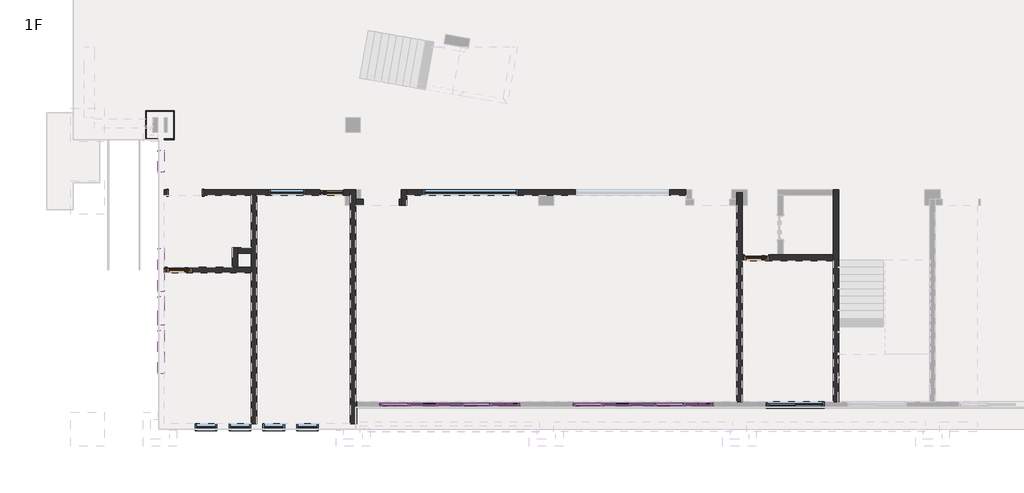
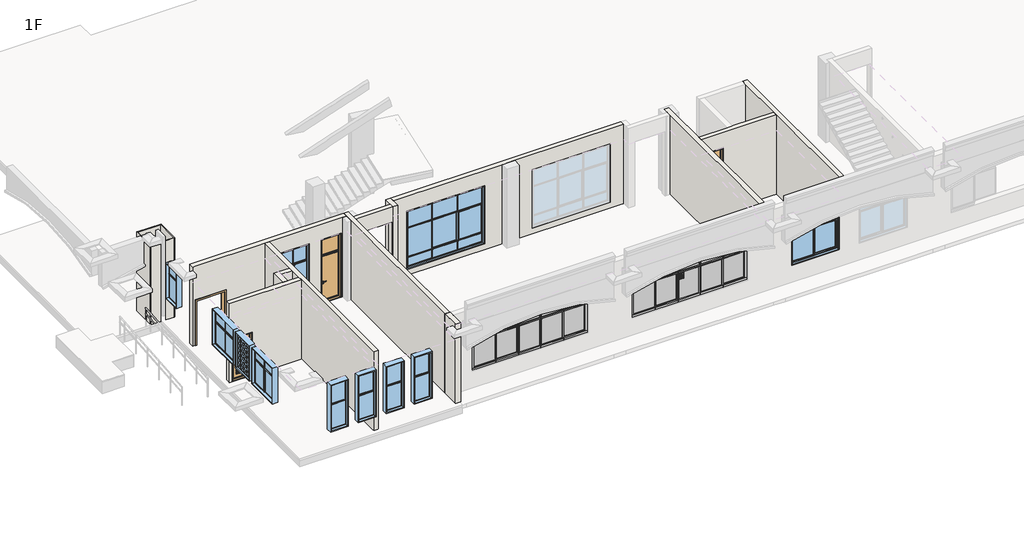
# One storey, part 1 of 16: 50 members, 18 walls, 16 plates, 11 windows, 4 doors.
"""IFC4 building model written with IfcOpenShell, lengths in millimetres."""

from ifc_helpers import new_model, si_unit, origin, origin_with_axes, place, context, project, spatial, polyline, outline, extrude, faceted_brep, transform, mapped, element, save
from components import dk1_dk1_83e99b34, m2_m2_dfb05117, m2_m2_a1934b10, m3_m3_68d9ec90, member_7564be38, member_1f4d75dd, member_0b7842ad, member_163d5e45, member_ffafc35e, member_2b011958, member_9c26cac3, member_6c42befd, member_a374fdad, plate_f4dba16c, plate_1cc4df2b, plate_4fa5932a, plate_00f9c624, plate_18a10205, plate_942ffe46, window_f154a97f, lc1_lc1_e150ab57, lc2_lc2_a0e1ef0e, lc4_lc4_fe35c1f3, lc5_lc5_223d64ff, lc6_lc6_03a52bd1, lc7_lc7_d4e3c0d7, lc7a_lc7a_17cb4d8c

model = new_model("IFC4")

# Units and contexts
model_context = context("Model", 3, world=origin())
ifc_project = project(units=[si_unit("LENGTHUNIT", "METRE", prefix="MILLI")], contexts=[model_context])

# Site, building, storey
site = spatial("IfcSite", under=ifc_project)
building = spatial("IfcBuilding", under=site)
storey = spatial("IfcBuildingStorey", under=building, Name="1F", Elevation=0.0)

# Doors
placement = place(None, origin())
dk1_dk1_shape = dk1_dk1_83e99b34(model_context)
element("IfcDoor", 1, ObjectType="DK1 : DK1", at=placement, inside=storey, context=model_context, shape_type="MappedRepresentation", body=[
    mapped(dk1_dk1_shape, transform((4050.0, 9800.276907, 0.0), x_axis=(-1.0, 0.0, 0.0), y_axis=(0.0, -1.0, 0.0), z_axis=(0.0, 0.0, 1.0))),
])
m2_m2_shape = m2_m2_dfb05117(model_context)
element("IfcDoor", 2, ObjectType="M2 : M2", at=placement, inside=storey, context=model_context, shape_type="MappedRepresentation", body=[
    mapped(m2_m2_shape, transform((10109.9999985, 9800.276907, 0.0), x_axis=(-1.0, 0.0, 0.0), y_axis=(0.0, -1.0, 0.0), z_axis=(0.0, 0.0, 1.0))),
])
m2_m2_2_shape = m2_m2_a1934b10(model_context)
element("IfcDoor", 3, ObjectType="M2 : M2", at=placement, inside=storey, context=model_context, shape_type="MappedRepresentation", body=[
    mapped(m2_m2_2_shape, transform((27709.9999991, 7100.3045362, 0.0), x_axis=(1.0, 0.0, 0.0), y_axis=(0.0, 1.0, 0.0), z_axis=(0.0, 0.0, 1.0))),
])
m3_m3_shape = m3_m3_68d9ec90(model_context)
element("IfcDoor", 4, ObjectType="M3 : M3", at=placement, inside=storey, context=model_context, shape_type="MappedRepresentation", body=[
    mapped(m3_m3_shape, transform((3809.9999988, 6600.7769017, 0.0), x_axis=(1.0, 0.0, 0.0), y_axis=(0.0, 1.0, 0.0), z_axis=(0.0, 0.0, 1.0))),
])

# Members
member_shape = member_7564be38(model_context)
element("IfcMember", 5, ObjectType="矩形竖梃 : 教学楼 – 矩形竖梃 – 100x150mm", at=placement, inside=storey, context=model_context, shape_type="MappedRepresentation", body=[
    mapped(member_shape, transform((17909.9999985, 1000.0, 3400.0), x_axis=(0.0, 0.0, 1.0), y_axis=(0.0, -1.0, 0.0), z_axis=(1.0, 0.0, 0.0))),
])
element("IfcMember", 6, ObjectType="矩形竖梃 : 教学楼 – 矩形竖梃 – 100x150mm", at=placement, inside=storey, context=model_context, shape_type="MappedRepresentation", body=[
    mapped(member_shape, transform((25909.9999985, 1000.0, 3400.0), x_axis=(0.0, 0.0, 1.0), y_axis=(0.0, -1.0, 0.0), z_axis=(1.0, 0.0, 0.0))),
])
element("IfcMember", 7, ObjectType="矩形竖梃 : 教学楼 – 矩形竖梃 – 100x150mm", at=placement, inside=storey, context=model_context, shape_type="MappedRepresentation", body=[
    mapped(member_shape, transform((12109.9999985, 1000.0, 900.0), x_axis=(0.0, 0.0, -1.0), y_axis=(0.0, -1.0, 0.0), z_axis=(-1.0, 0.0, 0.0))),
])
element("IfcMember", 8, ObjectType="矩形竖梃 : 教学楼 – 矩形竖梃 – 100x150mm", at=placement, inside=storey, context=model_context, shape_type="MappedRepresentation", body=[
    mapped(member_shape, transform((20109.9999985, 1000.0, 900.0), x_axis=(0.0, 0.0, -1.0), y_axis=(0.0, -1.0, 0.0), z_axis=(-1.0, 0.0, 0.0))),
])
member_2_shape = member_1f4d75dd(model_context)
element("IfcMember", 9, ObjectType="矩形竖梃 : 教学楼 – 矩形竖梃 – 50x150mm", at=placement, inside=storey, context=model_context, shape_type="MappedRepresentation", body=[
    mapped(member_2_shape, transform((14459.9999985, 1000.0, 1000.0), x_axis=(1.0, 0.0, 0.0), y_axis=(0.0, -1.0, 0.0), z_axis=(0.0, 0.0, -1.0))),
])
element("IfcMember", 10, ObjectType="矩形竖梃 : 教学楼 – 矩形竖梃 – 50x150mm", at=placement, inside=storey, context=model_context, shape_type="MappedRepresentation", body=[
    mapped(member_2_shape, transform((15559.9999985, 1000.0, 1000.0), x_axis=(1.0, 0.0, 0.0), y_axis=(0.0, -1.0, 0.0), z_axis=(0.0, 0.0, -1.0))),
])
element("IfcMember", 11, ObjectType="矩形竖梃 : 教学楼 – 矩形竖梃 – 50x150mm", at=placement, inside=storey, context=model_context, shape_type="MappedRepresentation", body=[
    mapped(member_2_shape, transform((22459.9999985, 1000.0, 1000.0), x_axis=(1.0, 0.0, 0.0), y_axis=(0.0, -1.0, 0.0), z_axis=(0.0, 0.0, -1.0))),
])
element("IfcMember", 12, ObjectType="矩形竖梃 : 教学楼 – 矩形竖梃 – 50x150mm", at=placement, inside=storey, context=model_context, shape_type="MappedRepresentation", body=[
    mapped(member_2_shape, transform((23559.9999985, 1000.0, 1000.0), x_axis=(1.0, 0.0, 0.0), y_axis=(0.0, -1.0, 0.0), z_axis=(0.0, 0.0, -1.0))),
])
member_3_shape = member_0b7842ad(model_context)
element("IfcMember", 13, ObjectType="矩形竖梃 : 教学楼 – 矩形竖梃 – 50x150mm", at=placement, inside=storey, context=model_context, shape_type="MappedRepresentation", body=[
    mapped(member_3_shape, transform((13309.9999985, 1000.0, 2450.0), x_axis=(0.0, 0.0, 1.0), y_axis=(0.0, -1.0, 0.0), z_axis=(1.0, 0.0, 0.0))),
])
element("IfcMember", 14, ObjectType="矩形竖梃 : 教学楼 – 矩形竖梃 – 50x150mm", at=placement, inside=storey, context=model_context, shape_type="MappedRepresentation", body=[
    mapped(member_3_shape, transform((21309.9999985, 1000.0, 2450.0), x_axis=(0.0, 0.0, 1.0), y_axis=(0.0, -1.0, 0.0), z_axis=(1.0, 0.0, 0.0))),
])
member_4_shape = member_163d5e45(model_context)
element("IfcMember", 15, ObjectType="矩形竖梃 : 教学楼 – 矩形竖梃 – 50x150mm", at=placement, inside=storey, context=model_context, shape_type="MappedRepresentation", body=[
    mapped(member_4_shape, transform((14459.9999985, 1000.0, 2450.0), x_axis=(0.0, 0.0, 1.0), y_axis=(0.0, -1.0, 0.0), z_axis=(1.0, 0.0, 0.0))),
])
element("IfcMember", 16, ObjectType="矩形竖梃 : 教学楼 – 矩形竖梃 – 50x150mm", at=placement, inside=storey, context=model_context, shape_type="MappedRepresentation", body=[
    mapped(member_4_shape, transform((16709.9999985, 1000.0, 2450.0), x_axis=(0.0, 0.0, 1.0), y_axis=(0.0, -1.0, 0.0), z_axis=(1.0, 0.0, 0.0))),
])
element("IfcMember", 17, ObjectType="矩形竖梃 : 教学楼 – 矩形竖梃 – 50x150mm", at=placement, inside=storey, context=model_context, shape_type="MappedRepresentation", body=[
    mapped(member_4_shape, transform((22459.9999985, 1000.0, 2450.0), x_axis=(0.0, 0.0, 1.0), y_axis=(0.0, -1.0, 0.0), z_axis=(1.0, 0.0, 0.0))),
])
element("IfcMember", 18, ObjectType="矩形竖梃 : 教学楼 – 矩形竖梃 – 50x150mm", at=placement, inside=storey, context=model_context, shape_type="MappedRepresentation", body=[
    mapped(member_4_shape, transform((24709.9999985, 1000.0, 2450.0), x_axis=(0.0, 0.0, 1.0), y_axis=(0.0, -1.0, 0.0), z_axis=(1.0, 0.0, 0.0))),
])
element("IfcMember", 19, ObjectType="矩形竖梃 : 教学楼 – 矩形竖梃 – 50x150mm", at=placement, inside=storey, context=model_context, shape_type="MappedRepresentation", body=[
    mapped(member_3_shape, transform((15559.9999985, 1000.0, 2450.0), x_axis=(0.0, 0.0, 1.0), y_axis=(0.0, -1.0, 0.0), z_axis=(1.0, 0.0, 0.0))),
])
element("IfcMember", 20, ObjectType="矩形竖梃 : 教学楼 – 矩形竖梃 – 50x150mm", at=placement, inside=storey, context=model_context, shape_type="MappedRepresentation", body=[
    mapped(member_3_shape, transform((23559.9999985, 1000.0, 2450.0), x_axis=(0.0, 0.0, 1.0), y_axis=(0.0, -1.0, 0.0), z_axis=(1.0, 0.0, 0.0))),
])
element("IfcMember", 21, ObjectType="矩形竖梃 : 教学楼 – 矩形竖梃 – 50x150mm", at=placement, inside=storey, context=model_context, shape_type="MappedRepresentation", body=[
    mapped(member_3_shape, transform((17809.9999985, 1000.0, 2450.0), x_axis=(0.0, 0.0, 1.0), y_axis=(0.0, -1.0, 0.0), z_axis=(1.0, 0.0, 0.0))),
])
element("IfcMember", 22, ObjectType="矩形竖梃 : 教学楼 – 矩形竖梃 – 50x150mm", at=placement, inside=storey, context=model_context, shape_type="MappedRepresentation", body=[
    mapped(member_3_shape, transform((25809.9999985, 1000.0, 2450.0), x_axis=(0.0, 0.0, 1.0), y_axis=(0.0, -1.0, 0.0), z_axis=(1.0, 0.0, 0.0))),
])
member_5_shape = member_ffafc35e(model_context)
element("IfcMember", 23, ObjectType="矩形竖梃 : 教学楼 – 矩形竖梃 – 100x150mm", at=placement, inside=storey, context=model_context, shape_type="MappedRepresentation", body=[
    mapped(member_5_shape, transform((13309.9999985, 1000.0, 900.0), x_axis=(0.0, 0.0, -1.0), y_axis=(0.0, -1.0, 0.0), z_axis=(-1.0, 0.0, 0.0))),
])
element("IfcMember", 24, ObjectType="矩形竖梃 : 教学楼 – 矩形竖梃 – 100x150mm", at=placement, inside=storey, context=model_context, shape_type="MappedRepresentation", body=[
    mapped(member_5_shape, transform((21309.9999985, 1000.0, 900.0), x_axis=(0.0, 0.0, -1.0), y_axis=(0.0, -1.0, 0.0), z_axis=(-1.0, 0.0, 0.0))),
])
member_6_shape = member_2b011958(model_context)
element("IfcMember", 25, ObjectType="矩形竖梃 : 教学楼 – 矩形竖梃 – 100x150mm", at=placement, inside=storey, context=model_context, shape_type="MappedRepresentation", body=[
    mapped(member_6_shape, transform((14459.9999985, 1000.0, 900.0), x_axis=(0.0, 0.0, -1.0), y_axis=(0.0, -1.0, 0.0), z_axis=(-1.0, 0.0, 0.0))),
])
element("IfcMember", 26, ObjectType="矩形竖梃 : 教学楼 – 矩形竖梃 – 100x150mm", at=placement, inside=storey, context=model_context, shape_type="MappedRepresentation", body=[
    mapped(member_6_shape, transform((22459.9999985, 1000.0, 900.0), x_axis=(0.0, 0.0, -1.0), y_axis=(0.0, -1.0, 0.0), z_axis=(-1.0, 0.0, 0.0))),
])
element("IfcMember", 27, ObjectType="矩形竖梃 : 教学楼 – 矩形竖梃 – 100x150mm", at=placement, inside=storey, context=model_context, shape_type="MappedRepresentation", body=[
    mapped(member_5_shape, transform((15559.9999985, 1000.0, 900.0), x_axis=(0.0, 0.0, -1.0), y_axis=(0.0, -1.0, 0.0), z_axis=(-1.0, 0.0, 0.0))),
])
element("IfcMember", 28, ObjectType="矩形竖梃 : 教学楼 – 矩形竖梃 – 100x150mm", at=placement, inside=storey, context=model_context, shape_type="MappedRepresentation", body=[
    mapped(member_5_shape, transform((23559.9999985, 1000.0, 900.0), x_axis=(0.0, 0.0, -1.0), y_axis=(0.0, -1.0, 0.0), z_axis=(-1.0, 0.0, 0.0))),
])
element("IfcMember", 29, ObjectType="矩形竖梃 : 教学楼 – 矩形竖梃 – 100x150mm", at=placement, inside=storey, context=model_context, shape_type="MappedRepresentation", body=[
    mapped(member_shape, transform((16709.9999985, 1000.0, 900.0), x_axis=(0.0, 0.0, -1.0), y_axis=(0.0, -1.0, 0.0), z_axis=(-1.0, 0.0, 0.0))),
])
element("IfcMember", 30, ObjectType="矩形竖梃 : 教学楼 – 矩形竖梃 – 100x150mm", at=placement, inside=storey, context=model_context, shape_type="MappedRepresentation", body=[
    mapped(member_shape, transform((24709.9999985, 1000.0, 900.0), x_axis=(0.0, 0.0, -1.0), y_axis=(0.0, -1.0, 0.0), z_axis=(-1.0, 0.0, 0.0))),
])
element("IfcMember", 31, ObjectType="矩形竖梃 : 教学楼 – 矩形竖梃 – 100x150mm", at=placement, inside=storey, context=model_context, shape_type="MappedRepresentation", body=[
    mapped(member_shape, transform((13309.9999985, 1000.0, 3400.0), x_axis=(0.0, 0.0, 1.0), y_axis=(0.0, -1.0, 0.0), z_axis=(1.0, 0.0, 0.0))),
])
element("IfcMember", 32, ObjectType="矩形竖梃 : 教学楼 – 矩形竖梃 – 100x150mm", at=placement, inside=storey, context=model_context, shape_type="MappedRepresentation", body=[
    mapped(member_shape, transform((21309.9999985, 1000.0, 3400.0), x_axis=(0.0, 0.0, 1.0), y_axis=(0.0, -1.0, 0.0), z_axis=(1.0, 0.0, 0.0))),
])
element("IfcMember", 33, ObjectType="矩形竖梃 : 教学楼 – 矩形竖梃 – 100x150mm", at=placement, inside=storey, context=model_context, shape_type="MappedRepresentation", body=[
    mapped(member_5_shape, transform((14459.9999985, 1000.0, 3400.0), x_axis=(0.0, 0.0, 1.0), y_axis=(0.0, -1.0, 0.0), z_axis=(1.0, 0.0, 0.0))),
])
element("IfcMember", 34, ObjectType="矩形竖梃 : 教学楼 – 矩形竖梃 – 100x150mm", at=placement, inside=storey, context=model_context, shape_type="MappedRepresentation", body=[
    mapped(member_5_shape, transform((16709.9999985, 1000.0, 3400.0), x_axis=(0.0, 0.0, 1.0), y_axis=(0.0, -1.0, 0.0), z_axis=(1.0, 0.0, 0.0))),
])
element("IfcMember", 35, ObjectType="矩形竖梃 : 教学楼 – 矩形竖梃 – 100x150mm", at=placement, inside=storey, context=model_context, shape_type="MappedRepresentation", body=[
    mapped(member_5_shape, transform((22459.9999985, 1000.0, 3400.0), x_axis=(0.0, 0.0, 1.0), y_axis=(0.0, -1.0, 0.0), z_axis=(1.0, 0.0, 0.0))),
])
element("IfcMember", 36, ObjectType="矩形竖梃 : 教学楼 – 矩形竖梃 – 100x150mm", at=placement, inside=storey, context=model_context, shape_type="MappedRepresentation", body=[
    mapped(member_5_shape, transform((24709.9999985, 1000.0, 3400.0), x_axis=(0.0, 0.0, 1.0), y_axis=(0.0, -1.0, 0.0), z_axis=(1.0, 0.0, 0.0))),
])
element("IfcMember", 37, ObjectType="矩形竖梃 : 教学楼 – 矩形竖梃 – 100x150mm", at=placement, inside=storey, context=model_context, shape_type="MappedRepresentation", body=[
    mapped(member_6_shape, transform((15559.9999985, 1000.0, 3400.0), x_axis=(0.0, 0.0, 1.0), y_axis=(0.0, -1.0, 0.0), z_axis=(1.0, 0.0, 0.0))),
])
element("IfcMember", 38, ObjectType="矩形竖梃 : 教学楼 – 矩形竖梃 – 100x150mm", at=placement, inside=storey, context=model_context, shape_type="MappedRepresentation", body=[
    mapped(member_6_shape, transform((23559.9999985, 1000.0, 3400.0), x_axis=(0.0, 0.0, 1.0), y_axis=(0.0, -1.0, 0.0), z_axis=(1.0, 0.0, 0.0))),
])
member_7_shape = member_9c26cac3(model_context)
element("IfcMember", 39, ObjectType="矩形竖梃 : 教学楼 – 矩形竖梃 – 50x150mm", at=placement, inside=storey, context=model_context, shape_type="MappedRepresentation", body=[
    mapped(member_7_shape, transform((13309.9999985, 1000.0, 2475.0), x_axis=(1.0, 0.0, 0.0), y_axis=(0.0, -1.0, 0.0), z_axis=(0.0, 0.0, -1.0))),
])
element("IfcMember", 40, ObjectType="矩形竖梃 : 教学楼 – 矩形竖梃 – 50x150mm", at=placement, inside=storey, context=model_context, shape_type="MappedRepresentation", body=[
    mapped(member_7_shape, transform((14459.9999985, 1000.0, 2475.0), x_axis=(1.0, 0.0, 0.0), y_axis=(0.0, -1.0, 0.0), z_axis=(0.0, 0.0, -1.0))),
])
element("IfcMember", 41, ObjectType="矩形竖梃 : 教学楼 – 矩形竖梃 – 50x150mm", at=placement, inside=storey, context=model_context, shape_type="MappedRepresentation", body=[
    mapped(member_7_shape, transform((15559.9999985, 1000.0, 2475.0), x_axis=(1.0, 0.0, 0.0), y_axis=(0.0, -1.0, 0.0), z_axis=(0.0, 0.0, -1.0))),
])
element("IfcMember", 42, ObjectType="矩形竖梃 : 教学楼 – 矩形竖梃 – 50x150mm", at=placement, inside=storey, context=model_context, shape_type="MappedRepresentation", body=[
    mapped(member_7_shape, transform((16709.9999985, 1000.0, 2475.0), x_axis=(1.0, 0.0, 0.0), y_axis=(0.0, -1.0, 0.0), z_axis=(0.0, 0.0, -1.0))),
])
element("IfcMember", 43, ObjectType="矩形竖梃 : 教学楼 – 矩形竖梃 – 50x150mm", at=placement, inside=storey, context=model_context, shape_type="MappedRepresentation", body=[
    mapped(member_7_shape, transform((21309.9999985, 1000.0, 2475.0), x_axis=(1.0, 0.0, 0.0), y_axis=(0.0, -1.0, 0.0), z_axis=(0.0, 0.0, -1.0))),
])
element("IfcMember", 44, ObjectType="矩形竖梃 : 教学楼 – 矩形竖梃 – 50x150mm", at=placement, inside=storey, context=model_context, shape_type="MappedRepresentation", body=[
    mapped(member_7_shape, transform((22459.9999985, 1000.0, 2475.0), x_axis=(1.0, 0.0, 0.0), y_axis=(0.0, -1.0, 0.0), z_axis=(0.0, 0.0, -1.0))),
])
element("IfcMember", 45, ObjectType="矩形竖梃 : 教学楼 – 矩形竖梃 – 50x150mm", at=placement, inside=storey, context=model_context, shape_type="MappedRepresentation", body=[
    mapped(member_7_shape, transform((23559.9999985, 1000.0, 2475.0), x_axis=(1.0, 0.0, 0.0), y_axis=(0.0, -1.0, 0.0), z_axis=(0.0, 0.0, -1.0))),
])
element("IfcMember", 46, ObjectType="矩形竖梃 : 教学楼 – 矩形竖梃 – 50x150mm", at=placement, inside=storey, context=model_context, shape_type="MappedRepresentation", body=[
    mapped(member_7_shape, transform((24709.9999985, 1000.0, 2475.0), x_axis=(1.0, 0.0, 0.0), y_axis=(0.0, -1.0, 0.0), z_axis=(0.0, 0.0, -1.0))),
])
member_8_shape = member_6c42befd(model_context)
element("IfcMember", 47, ObjectType="矩形竖梃 : 教学楼 – 矩形竖梃 – 100x150mm", at=placement, inside=storey, context=model_context, shape_type="MappedRepresentation", body=[
    mapped(member_8_shape, transform((12109.9999985, 1000.0, 3300.0), x_axis=(-1.0, 0.0, 0.0), y_axis=(0.0, -1.0, 0.0), z_axis=(0.0, 0.0, 1.0))),
])
element("IfcMember", 48, ObjectType="矩形竖梃 : 教学楼 – 矩形竖梃 – 100x150mm", at=placement, inside=storey, context=model_context, shape_type="MappedRepresentation", body=[
    mapped(member_8_shape, transform((20109.9999985, 1000.0, 3300.0), x_axis=(-1.0, 0.0, 0.0), y_axis=(0.0, -1.0, 0.0), z_axis=(0.0, 0.0, 1.0))),
])
member_9_shape = member_a374fdad(model_context)
element("IfcMember", 49, ObjectType="矩形竖梃 : 教学楼 – 矩形竖梃 – 100x150mm", at=placement, inside=storey, context=model_context, shape_type="MappedRepresentation", body=[
    mapped(member_9_shape, transform((17909.9999985, 1000.0, 1000.0), x_axis=(1.0, 0.0, 0.0), y_axis=(0.0, -1.0, 0.0), z_axis=(0.0, 0.0, -1.0))),
])
element("IfcMember", 50, ObjectType="矩形竖梃 : 教学楼 – 矩形竖梃 – 100x150mm", at=placement, inside=storey, context=model_context, shape_type="MappedRepresentation", body=[
    mapped(member_9_shape, transform((25909.9999985, 1000.0, 1000.0), x_axis=(1.0, 0.0, 0.0), y_axis=(0.0, -1.0, 0.0), z_axis=(0.0, 0.0, -1.0))),
])
element("IfcMember", 51, ObjectType="矩形竖梃 : 教学楼 – 矩形竖梃 – 100x150mm", at=placement, inside=storey, context=model_context, shape_type="MappedRepresentation", body=[
    mapped(member_8_shape, transform((17909.9999985, 1000.0, 2450.0), x_axis=(1.0, 0.0, 0.0), y_axis=(0.0, -1.0, 0.0), z_axis=(0.0, 0.0, -1.0))),
])
element("IfcMember", 52, ObjectType="矩形竖梃 : 教学楼 – 矩形竖梃 – 100x150mm", at=placement, inside=storey, context=model_context, shape_type="MappedRepresentation", body=[
    mapped(member_8_shape, transform((25909.9999985, 1000.0, 2450.0), x_axis=(1.0, 0.0, 0.0), y_axis=(0.0, -1.0, 0.0), z_axis=(0.0, 0.0, -1.0))),
])
element("IfcMember", 53, ObjectType="矩形竖梃 : 教学楼 – 矩形竖梃 – 100x150mm", at=placement, inside=storey, context=model_context, shape_type="MappedRepresentation", body=[
    mapped(member_9_shape, transform((12109.9999985, 1000.0, 2450.0), x_axis=(-1.0, 0.0, 0.0), y_axis=(0.0, -1.0, 0.0), z_axis=(0.0, 0.0, 1.0))),
])
element("IfcMember", 54, ObjectType="矩形竖梃 : 教学楼 – 矩形竖梃 – 100x150mm", at=placement, inside=storey, context=model_context, shape_type="MappedRepresentation", body=[
    mapped(member_9_shape, transform((20109.9999985, 1000.0, 2450.0), x_axis=(-1.0, 0.0, 0.0), y_axis=(0.0, -1.0, 0.0), z_axis=(0.0, 0.0, 1.0))),
])

# Plates
plate_shape = plate_f4dba16c(model_context)
element("IfcPlate", 55, ObjectType="系统嵌板 : 玻璃", at=placement, inside=storey, context=model_context, shape_type="MappedRepresentation", body=[
    mapped(plate_shape, transform((15009.9999985, 1000.0, 1000.0), x_axis=(1.0, 0.0, 0.0), y_axis=(0.0, 1.0, 0.0), z_axis=(0.0, 0.0, 1.0))),
])
plate_2_shape = plate_1cc4df2b(model_context)
element("IfcPlate", 56, ObjectType="系统嵌板 : 玻璃", at=placement, inside=storey, context=model_context, shape_type="MappedRepresentation", body=[
    mapped(plate_2_shape, transform((12747.4999985, 1000.0, 2475.0), x_axis=(1.0, 0.0, 0.0), y_axis=(0.0, 1.0, 0.0), z_axis=(0.0, 0.0, 1.0))),
])
element("IfcPlate", 57, ObjectType="系统嵌板 : 玻璃", at=placement, inside=storey, context=model_context, shape_type="MappedRepresentation", body=[
    mapped(plate_2_shape, transform((17272.4999985, 1000.0, 2475.0), x_axis=(1.0, 0.0, 0.0), y_axis=(0.0, 1.0, 0.0), z_axis=(0.0, 0.0, 1.0))),
])
element("IfcPlate", 58, ObjectType="系统嵌板 : 玻璃", at=placement, inside=storey, context=model_context, shape_type="MappedRepresentation", body=[
    mapped(plate_2_shape, transform((20747.4999985, 1000.0, 2475.0), x_axis=(1.0, 0.0, 0.0), y_axis=(0.0, 1.0, 0.0), z_axis=(0.0, 0.0, 1.0))),
])
element("IfcPlate", 59, ObjectType="系统嵌板 : 玻璃", at=placement, inside=storey, context=model_context, shape_type="MappedRepresentation", body=[
    mapped(plate_2_shape, transform((25272.4999985, 1000.0, 2475.0), x_axis=(1.0, 0.0, 0.0), y_axis=(0.0, 1.0, 0.0), z_axis=(0.0, 0.0, 1.0))),
])
plate_3_shape = plate_4fa5932a(model_context)
element("IfcPlate", 60, ObjectType="系统嵌板 : 玻璃", at=placement, inside=storey, context=model_context, shape_type="MappedRepresentation", body=[
    mapped(plate_3_shape, transform((13884.9999985, 1000.0, 2475.0), x_axis=(1.0, 0.0, 0.0), y_axis=(0.0, 1.0, 0.0), z_axis=(0.0, 0.0, 1.0))),
])
element("IfcPlate", 61, ObjectType="系统嵌板 : 玻璃", at=placement, inside=storey, context=model_context, shape_type="MappedRepresentation", body=[
    mapped(plate_3_shape, transform((16134.9999985, 1000.0, 2475.0), x_axis=(1.0, 0.0, 0.0), y_axis=(0.0, 1.0, 0.0), z_axis=(0.0, 0.0, 1.0))),
])
element("IfcPlate", 62, ObjectType="系统嵌板 : 玻璃", at=placement, inside=storey, context=model_context, shape_type="MappedRepresentation", body=[
    mapped(plate_3_shape, transform((21884.9999985, 1000.0, 2475.0), x_axis=(1.0, 0.0, 0.0), y_axis=(0.0, 1.0, 0.0), z_axis=(0.0, 0.0, 1.0))),
])
element("IfcPlate", 63, ObjectType="系统嵌板 : 玻璃", at=placement, inside=storey, context=model_context, shape_type="MappedRepresentation", body=[
    mapped(plate_3_shape, transform((24134.9999985, 1000.0, 2475.0), x_axis=(1.0, 0.0, 0.0), y_axis=(0.0, 1.0, 0.0), z_axis=(0.0, 0.0, 1.0))),
])
plate_4_shape = plate_00f9c624(model_context)
element("IfcPlate", 64, ObjectType="系统嵌板 : 玻璃", at=placement, inside=storey, context=model_context, shape_type="MappedRepresentation", body=[
    mapped(plate_4_shape, transform((15009.9999985, 1000.0, 2475.0), x_axis=(1.0, 0.0, 0.0), y_axis=(0.0, 1.0, 0.0), z_axis=(0.0, 0.0, 1.0))),
])
element("IfcPlate", 65, ObjectType="系统嵌板 : 玻璃", at=placement, inside=storey, context=model_context, shape_type="MappedRepresentation", body=[
    mapped(plate_4_shape, transform((23009.9999985, 1000.0, 2475.0), x_axis=(1.0, 0.0, 0.0), y_axis=(0.0, 1.0, 0.0), z_axis=(0.0, 0.0, 1.0))),
])
plate_5_shape = plate_18a10205(model_context)
element("IfcPlate", 66, ObjectType="教学楼 - 窗嵌板：双扇推拉窗 : 教学楼 - 窗嵌板：双扇推拉窗", at=placement, inside=storey, context=model_context, shape_type="MappedRepresentation", body=[
    mapped(plate_5_shape, transform((13322.4999985, 1000.0, 1000.0), x_axis=(1.0, 0.0, 0.0), y_axis=(0.0, 1.0, 0.0), z_axis=(0.0, 0.0, 1.0))),
])
element("IfcPlate", 67, ObjectType="教学楼 - 窗嵌板：双扇推拉窗 : 教学楼 - 窗嵌板：双扇推拉窗", at=placement, inside=storey, context=model_context, shape_type="MappedRepresentation", body=[
    mapped(plate_5_shape, transform((21322.4999985, 1000.0, 1000.0), x_axis=(1.0, 0.0, 0.0), y_axis=(0.0, 1.0, 0.0), z_axis=(0.0, 0.0, 1.0))),
])
element("IfcPlate", 68, ObjectType="教学楼 - 窗嵌板：双扇推拉窗 : 教学楼 - 窗嵌板：双扇推拉窗", at=placement, inside=storey, context=model_context, shape_type="MappedRepresentation", body=[
    mapped(plate_5_shape, transform((16697.4999985, 1000.0, 1000.0), x_axis=(1.0, 0.0, 0.0), y_axis=(0.0, 1.0, 0.0), z_axis=(0.0, 0.0, 1.0))),
])
element("IfcPlate", 69, ObjectType="教学楼 - 窗嵌板：双扇推拉窗 : 教学楼 - 窗嵌板：双扇推拉窗", at=placement, inside=storey, context=model_context, shape_type="MappedRepresentation", body=[
    mapped(plate_5_shape, transform((24697.4999985, 1000.0, 1000.0), x_axis=(1.0, 0.0, 0.0), y_axis=(0.0, 1.0, 0.0), z_axis=(0.0, 0.0, 1.0))),
])
plate_6_shape = plate_942ffe46(model_context)
element("IfcPlate", 70, ObjectType="教学楼 - 窗嵌板：外贴消防通道 : 教学楼 - 窗嵌板：外贴消防通道", at=placement, inside=storey, context=model_context, shape_type="MappedRepresentation", body=[
    mapped(plate_6_shape, transform((23009.9999985, 1000.0, 1000.0), x_axis=(1.0, 0.0, 0.0), y_axis=(0.0, 1.0, 0.0), z_axis=(0.0, 0.0, 1.0))),
])

# Walls
element("IfcWall", 71, ObjectType="教学楼 – 文化石外墙 – 200mm", at=placement, inside=storey, context=model_context, shape_type="Brep", body=[
    faceted_brep([(11153.0, 217.3045361, 0.0), (11153.0, 300.0, 0.0), (11153.0, 865.0, 0.0), (11153.0, 1135.0, 0.0), (11153.0, 1135.0, 4200.0), (11153.0, 865.0, 4200.0), (11153.0, 300.0, 4200.0), (11153.0, 217.3045361, 4200.0), (10883.0, 217.3045361, 0.0), (10883.0, 217.3045361, 4200.0), (10883.0, 300.0, 4200.0), (10883.0, 1135.0, 4200.0), (10883.0, 1135.0, 0.0), (10883.0, 300.0, 0.0), (11117.0, 1135.0, 0.0), (11117.0, 1135.0, 4200.0)], [[[0, 1, 2, 3, 4, 5, 6, 7]], [[8, 9, 10, 11, 12, 13]], [[3, 2, 1, 0, 8, 13, 12, 14]], [[7, 6, 5, 4, 15, 11, 10, 9]], [[0, 7, 9, 8]], [[4, 3, 14, 12, 11, 15]]]),
])
element("IfcWall", 72, ObjectType="教学楼 – 涂料内墙 – 200mm", at=placement, inside=storey, context=model_context, shape_type="Brep", body=[
    faceted_brep([(11117.0, 1135.0, 0.0), (11117.0, 9283.0, 0.0), (11117.0, 9283.2768988, 0.0), (11117.0, 9517.2768988, 0.0), (11117.0, 9917.0, 0.0), (11117.0, 9917.276907, 0.0), (11117.0, 9917.276907, 4200.0), (11117.0, 9917.0, 4200.0), (11117.0, 9517.2768988, 4200.0), (11117.0, 9283.2768988, 4200.0), (11117.0, 9283.0, 4200.0), (11117.0, 1135.0, 4200.0), (10883.0, 1135.0, 0.0), (10883.0, 1135.0, 4200.0), (10883.0, 9283.0, 4200.0), (10883.0, 9683.276907, 4200.0), (10883.0, 9917.276907, 4200.0), (10883.0, 9917.276907, 0.0), (10883.0, 9683.276907, 0.0), (10883.0, 9283.0, 0.0)], [[[0, 1, 2, 3, 4, 5, 6, 7, 8, 9, 10, 11]], [[12, 13, 14, 15, 16, 17, 18, 19]], [[5, 4, 3, 2, 1, 0, 12, 19, 18, 17]], [[11, 10, 9, 8, 7, 6, 16, 15, 14, 13]], [[6, 5, 17, 16]], [[0, 11, 13, 12]]]),
])
element("IfcWall", 73, ObjectType="教学楼 – 涂料内墙 – 200mm", at=placement, inside=storey, context=model_context, shape_type="Brep", body=[
    faceted_brep([(7017.0000003, 217.3045361, 0.0), (7017.0000003, 9683.276907, 0.0), (7017.0000003, 9683.276907, 4050.0), (7017.0000003, 217.3045361, 4050.0), (6783.0000003, 9683.276907, 0.0), (6783.0000003, 7517.7768988, 0.0), (6783.0000003, 7283.7768988, 0.0), (6783.0000003, 6717.7769017, 0.0), (6783.0000003, 6483.7769017, 0.0), (6783.0000003, 217.3045361, 0.0), (6783.0000003, 217.3045361, 4200.0), (6783.0000003, 6483.7769017, 4200.0), (6783.0000003, 6717.7769017, 4200.0), (6783.0000003, 7283.7768988, 4200.0), (6783.0000003, 7517.7768988, 4200.0), (6783.0000003, 9683.276907, 4200.0), (7000.0000003, 217.3045361, 4200.0), (7000.0000003, 9683.276907, 4200.0), (7000.0000003, 9683.276907, 4050.0), (7000.0000003, 217.3045361, 4050.0)], [[[0, 1, 2, 3]], [[4, 5, 6, 7, 8, 9, 10, 11, 12, 13, 14, 15]], [[1, 0, 9, 8, 7, 6, 5, 4]], [[15, 14, 13, 12, 11, 10, 16, 17]], [[1, 4, 15, 17, 18, 2]], [[10, 9, 0, 3, 19, 16]], [[18, 19, 3, 2]], [[19, 18, 17, 16]]]),
])
element("IfcWall", 74, ObjectType="教学楼 – 涂料内墙 – 200mm", at=placement, inside=storey, context=model_context, shape_type="Brep", body=[
    faceted_brep([(27117.0, 1135.0, 0.0), (27117.0, 6983.3045362, 0.0), (27117.0, 7217.3045362, 0.0), (27117.0, 9283.0, 0.0), (27117.0, 9800.3045362, 0.0), (27117.0, 9800.3045362, 4200.0), (27117.0, 9283.0, 4200.0), (27117.0, 7217.3045362, 4200.0), (27117.0, 6983.3045362, 4200.0), (27117.0, 1135.0, 4200.0), (26883.0, 1135.0, 0.0), (26883.0, 1135.0, 4200.0), (26883.0, 9283.0, 4200.0), (26883.0, 9283.2768993, 4200.0), (26883.0, 9517.2768993, 4200.0), (26883.0, 9800.3045362, 4200.0), (26883.0, 9800.3045362, 0.0), (26883.0, 9517.2768993, 0.0), (26883.0, 9283.2768993, 0.0), (26883.0, 9283.0, 0.0)], [[[0, 1, 2, 3, 4, 5, 6, 7, 8, 9]], [[10, 11, 12, 13, 14, 15, 16, 17, 18, 19]], [[4, 3, 2, 1, 0, 10, 19, 18, 17, 16]], [[5, 4, 16, 15]], [[9, 8, 7, 6, 5, 15, 14, 13, 12, 11]], [[0, 9, 11, 10]]]),
])
element("IfcWall", 75, ObjectType="教学楼 – 涂料内墙 – 200mm", at=placement, inside=storey, context=model_context, shape_type="Brep", body=[
    faceted_brep([(31117.0000029, 1135.0, 0.0), (31117.0000029, 9917.3045362, 0.0), (31117.0000029, 9917.3045362, 4200.0), (31117.0000029, 1135.0, 4200.0), (30883.0000029, 1135.0, 0.0), (30883.0000029, 1135.0, 4200.0), (30883.0000029, 6983.3045362, 4200.0), (30883.0000029, 7217.3045362, 4200.0), (30883.0000029, 9683.3045362, 4200.0), (30883.0000029, 9917.3045362, 4200.0), (30883.0000029, 9917.3045362, 0.0), (30883.0000029, 9683.3045362, 0.0), (30883.0000029, 7217.3045362, 0.0), (30883.0000029, 6983.3045362, 0.0)], [[[0, 1, 2, 3]], [[4, 5, 6, 7, 8, 9, 10, 11, 12, 13]], [[1, 0, 4, 13, 12, 11, 10]], [[3, 2, 9, 8, 7, 6, 5]], [[2, 1, 10, 9]], [[0, 3, 5, 4]]]),
])
element("IfcWall", 76, ObjectType="教学楼 – 涂料内墙 – 200mm", at=placement, inside=storey, context=model_context, shape_type="Brep", body=[
    faceted_brep([(24782.9999964, 9917.3045359, 0.0), (13216.9999996, 9917.3045359, 0.0), (13216.9999996, 9917.3045359, 4200.0), (24782.9999964, 9917.3045359, 4200.0), (24109.9999978, 9917.3045359, 300.0), (24109.9999978, 9917.3045359, 3400.0), (20209.9999978, 9917.3045359, 3400.0), (20209.9999978, 9917.3045359, 300.0), (17809.9999978, 9917.3045359, 300.0), (17809.9999978, 9917.3045359, 3400.0), (13909.9999978, 9917.3045359, 3400.0), (13909.9999978, 9917.3045359, 300.0), (24782.9999964, 9683.3045359, 0.0), (24782.9999964, 9683.3045359, 4200.0), (19317.0, 9683.3045359, 4200.0), (18683.0, 9683.3045359, 4200.0), (13216.9999996, 9683.3045359, 4200.0), (13216.9999996, 9683.3045359, 0.0), (18683.0, 9683.3045359, 0.0), (19317.0, 9683.3045359, 0.0), (24109.9999978, 9683.3045359, 300.0), (20209.9999978, 9683.3045359, 300.0), (20209.9999978, 9683.3045359, 3400.0), (24109.9999978, 9683.3045359, 3400.0), (17809.9999978, 9683.3045359, 300.0), (13909.9999978, 9683.3045359, 300.0), (13909.9999978, 9683.3045359, 3400.0), (17809.9999978, 9683.3045359, 3400.0)], [[[0, 1, 2, 3], [4, 5, 6, 7], [8, 9, 10, 11]], [[12, 13, 14, 15, 16, 17, 18, 19], [20, 21, 22, 23], [24, 25, 26, 27]], [[1, 0, 12, 19, 18, 17]], [[3, 2, 16, 15, 14, 13]], [[0, 3, 13, 12]], [[2, 1, 17, 16]], [[5, 4, 20, 23]], [[6, 5, 23, 22]], [[7, 6, 22, 21]], [[4, 7, 21, 20]], [[9, 8, 24, 27]], [[10, 9, 27, 26]], [[11, 10, 26, 25]], [[8, 11, 25, 24]]]),
])
element("IfcWall", 77, ObjectType="教学楼 – 涂料内墙 – 200mm", at=placement, inside=storey, context=model_context, shape_type="Brep", body=[
    faceted_brep([(12982.9999996, 9917.3045359, 0.0), (12982.9999996, 9517.2768988, 0.0), (12982.9999996, 9283.2768988, 0.0), (12982.9999996, 9283.2768988, 4200.0), (12982.9999996, 9517.2768988, 4200.0), (12982.9999996, 9917.3045359, 4200.0), (13216.9999996, 9917.3045359, 0.0), (13216.9999996, 9917.3045359, 4200.0), (13216.9999996, 9683.3045359, 4200.0), (13216.9999996, 9283.2768988, 4200.0), (13216.9999996, 9283.2768988, 0.0), (13216.9999996, 9683.3045359, 0.0)], [[[0, 1, 2, 3, 4, 5]], [[6, 7, 8, 9, 10, 11]], [[2, 1, 0, 6, 11, 10]], [[5, 4, 3, 9, 8, 7]], [[3, 2, 10, 9]], [[0, 5, 7, 6]]]),
])
element("IfcWall", 78, ObjectType="教学楼 – 涂料内墙 – 200mm", at=placement, inside=storey, context=model_context, shape_type="Brep", body=[
    faceted_brep([(11117.0, 9517.2768988, 4200.0), (11317.0, 9517.2768988, 4200.0), (12982.9999996, 9517.2768988, 4200.0), (12982.9999996, 9517.2768988, 0.0), (12909.9999995, 9517.2768988, 0.0), (12909.9999995, 9517.2768988, 3400.0), (11409.9999995, 9517.2768988, 3400.0), (11409.9999995, 9517.2768988, 0.0), (11317.0, 9517.2768988, 0.0), (11117.0, 9517.2768988, 0.0), (12982.9999996, 9283.2768988, 4200.0), (11317.0, 9283.2768988, 4200.0), (11117.0, 9283.2768988, 4200.0), (11117.0, 9283.2768988, 0.0), (11317.0, 9283.2768988, 0.0), (11409.9999995, 9283.2768988, 0.0), (11409.9999995, 9283.2768988, 3400.0), (12909.9999995, 9283.2768988, 3400.0), (12909.9999995, 9283.2768988, 0.0), (12982.9999996, 9283.2768988, 0.0)], [[[0, 1, 2, 3, 4, 5, 6, 7, 8, 9]], [[10, 11, 12, 13, 14, 15, 16, 17, 18, 19]], [[3, 19, 18, 4]], [[13, 9, 8, 7, 15, 14]], [[2, 1, 0, 12, 11, 10]], [[3, 2, 10, 19]], [[0, 9, 13, 12]], [[17, 5, 4, 18]], [[5, 17, 16, 6]], [[6, 16, 15, 7]]]),
])
element("IfcWall", 79, ObjectType="教学楼 – 涂料内墙 – 200mm", at=placement, inside=storey, context=model_context, shape_type="Brep", body=[
    faceted_brep([(10883.0, 9683.276907, 4200.0), (10683.0, 9683.276907, 4200.0), (7017.0000003, 9683.276907, 4200.0), (6783.0000003, 9683.276907, 4200.0), (3300.0, 9683.276907, 4200.0), (3167.0000002, 9683.276907, 4200.0), (3167.0000002, 9683.276907, 0.0), (3300.0, 9683.276907, 0.0), (3300.0, 9683.276907, 2400.0), (4800.0, 9683.276907, 2400.0), (4800.0, 9683.276907, 0.0), (6783.0000003, 9683.276907, 0.0), (7017.0000003, 9683.276907, 0.0), (9609.9999985, 9683.276907, 0.0), (9609.9999985, 9683.276907, 3400.0), (10609.9999985, 9683.276907, 3400.0), (10609.9999985, 9683.276907, 0.0), (10683.0, 9683.276907, 0.0), (10883.0, 9683.276907, 0.0), (9010.0000038, 9683.276907, 300.0), (7510.0000038, 9683.276907, 300.0), (7510.0000038, 9683.276907, 3400.0), (9010.0000038, 9683.276907, 3400.0), (3167.0000002, 9917.276907, 4200.0), (10883.0, 9917.276907, 4200.0), (10883.0, 9917.276907, 0.0), (10609.9999985, 9917.276907, 0.0), (10609.9999985, 9917.276907, 3400.0), (9609.9999985, 9917.276907, 3400.0), (9609.9999985, 9917.276907, 0.0), (4800.0, 9917.276907, 0.0), (4800.0, 9917.276907, 2400.0), (3300.0, 9917.276907, 2400.0), (3300.0, 9917.276907, 0.0), (3167.0000002, 9917.276907, 0.0), (9010.0000038, 9917.276907, 300.0), (9010.0000038, 9917.276907, 3400.0), (7510.0000038, 9917.276907, 3400.0), (7510.0000038, 9917.276907, 300.0), (3167.0000002, 9900.0, 0.0), (3300.0, 9900.0, 0.0)], [[[0, 1, 2, 3, 4, 5, 6, 7, 8, 9, 10, 11, 12, 13, 14, 15, 16, 17, 18], [19, 20, 21, 22]], [[23, 24, 25, 26, 27, 28, 29, 30, 31, 32, 33, 34], [35, 36, 37, 38]], [[25, 18, 17, 16, 26]], [[10, 30, 29, 13, 12, 11]], [[6, 39, 34, 33, 40, 7]], [[5, 4, 3, 2, 1, 0, 24, 23]], [[0, 18, 25, 24]], [[6, 5, 23, 34, 39]], [[32, 8, 7, 40, 33]], [[8, 32, 31, 9]], [[9, 31, 30, 10]], [[28, 14, 13, 29]], [[14, 28, 27, 15]], [[15, 27, 26, 16]], [[36, 35, 19, 22]], [[37, 36, 22, 21]], [[38, 37, 21, 20]], [[35, 38, 20, 19]]]),
])
element("IfcWall", 80, ObjectType="教学楼 – 涂料内墙 – 200mm", at=placement, inside=storey, context=model_context, shape_type="Brep", body=[
    faceted_brep([(3167.0000002, 6717.7769017, 4200.0), (5983.0000019, 6717.7769017, 4200.0), (6217.0000019, 6717.7769017, 4200.0), (6783.0000003, 6717.7769017, 4200.0), (6783.0000003, 6717.7769017, 0.0), (6217.0000019, 6717.7769017, 0.0), (5983.0000019, 6717.7769017, 0.0), (4309.9999988, 6717.7769017, 0.0), (4309.9999988, 6717.7769017, 2300.0), (3309.9999988, 6717.7769017, 2300.0), (3309.9999988, 6717.7769017, 0.0), (3167.0000002, 6717.7769017, 0.0), (6783.0000003, 6483.7769017, 4200.0), (3167.0000002, 6483.7769017, 4200.0), (3167.0000002, 6483.7769017, 0.0), (3309.9999988, 6483.7769017, 0.0), (3309.9999988, 6483.7769017, 2300.0), (4309.9999988, 6483.7769017, 2300.0), (4309.9999988, 6483.7769017, 0.0), (6783.0000003, 6483.7769017, 0.0)], [[[0, 1, 2, 3, 4, 5, 6, 7, 8, 9, 10, 11]], [[12, 13, 14, 15, 16, 17, 18, 19]], [[4, 19, 18, 7, 6, 5]], [[14, 11, 10, 15]], [[3, 2, 1, 0, 13, 12]], [[4, 3, 12, 19]], [[0, 11, 14, 13]], [[17, 8, 7, 18]], [[8, 17, 16, 9]], [[9, 16, 15, 10]]]),
])
element("IfcWall", 81, ObjectType="教学楼 – 涂料内墙 – 200mm", at=placement, inside=storey, context=model_context, shape_type="Brep", body=[
    faceted_brep([(5983.0000019, 7517.7768988, 0.0), (5983.0000019, 6717.7769017, 0.0), (5983.0000019, 6717.7769017, 4200.0), (5983.0000019, 7517.7768988, 4200.0), (6217.0000019, 7517.7768988, 0.0), (6217.0000019, 7517.7768988, 4200.0), (6217.0000019, 7283.7768988, 4200.0), (6217.0000019, 6717.7769017, 4200.0), (6217.0000019, 6717.7769017, 0.0), (6217.0000019, 7283.7768988, 0.0)], [[[0, 1, 2, 3]], [[4, 5, 6, 7, 8, 9]], [[1, 0, 4, 9, 8]], [[3, 2, 7, 6, 5]], [[0, 3, 5, 4]], [[2, 1, 8, 7]]]),
])
element("IfcWall", 82, ObjectType="教学楼 – 涂料内墙 – 200mm", at=placement, inside=storey, context=model_context, shape_type="SweptSolid", body=[
    extrude(outline(polyline([(6217.0000019, 7517.7768988), (6783.0000003, 7517.7768988), (6783.0000003, 7283.7768988), (6217.0000019, 7283.7768988), (6217.0000019, 7517.7768988)])), origin_with_axes(), (0.0, 0.0, 1.0), 4200.0),
])
element("IfcWall", 83, ObjectType="教学楼 – 涂料内墙 – 200mm", at=placement, inside=storey, context=model_context, shape_type="Brep", body=[
    faceted_brep([(30883.0000029, 6983.3045362, 4200.0), (27117.0, 6983.3045362, 4200.0), (27117.0, 6983.3045362, 0.0), (27209.9999991, 6983.3045362, 0.0), (27209.9999991, 6983.3045362, 3400.0), (28209.9999991, 6983.3045362, 3400.0), (28209.9999991, 6983.3045362, 0.0), (30883.0000029, 6983.3045362, 0.0), (27117.0, 7217.3045362, 4200.0), (28583.0000027, 7217.3045362, 4200.0), (28817.0000027, 7217.3045362, 4200.0), (30883.0000029, 7217.3045362, 4200.0), (30883.0000029, 7217.3045362, 0.0), (28817.0000027, 7217.3045362, 0.0), (28583.0000027, 7217.3045362, 0.0), (28209.9999991, 7217.3045362, 0.0), (28209.9999991, 7217.3045362, 3400.0), (27209.9999991, 7217.3045362, 3400.0), (27209.9999991, 7217.3045362, 0.0), (27117.0, 7217.3045362, 0.0)], [[[0, 1, 2, 3, 4, 5, 6, 7]], [[8, 9, 10, 11, 12, 13, 14, 15, 16, 17, 18, 19]], [[2, 19, 18, 3]], [[12, 7, 6, 15, 14, 13]], [[1, 0, 11, 10, 9, 8]], [[2, 1, 8, 19]], [[0, 7, 12, 11]], [[5, 16, 15, 6]], [[16, 5, 4, 17]], [[17, 4, 3, 18]]]),
])
element("IfcWall", 84, ObjectType="教学楼 – 干挂石材 – 30mm", at=placement, inside=storey, context=model_context, shape_type="Brep", body=[
    faceted_brep([(2897.0000005, 12030.3097656, 0.0), (2429.9999999, 12030.3097656, 0.0), (2399.9999999, 12030.3097656, 0.0), (2399.9999999, 12030.3097656, 4200.0), (2429.9999999, 12030.3097656, 4200.0), (2897.0000005, 12030.3097656, 4200.0), (2897.0000005, 12000.3097656, 0.0), (2897.0000005, 12000.3097656, 4200.0), (2399.9999999, 12000.3097656, 4200.0), (2399.9999999, 12000.3097656, 0.0)], [[[0, 1, 2, 3, 4, 5]], [[6, 7, 8, 9]], [[2, 1, 0, 6, 9]], [[5, 4, 3, 8, 7]], [[0, 5, 7, 6]], [[3, 2, 9, 8]]]),
])
element("IfcWall", 85, ObjectType="教学楼 – 干挂石材 – 30mm", at=placement, inside=storey, context=model_context, shape_type="Brep", body=[
    faceted_brep([(2429.9999999, 12030.3097656, 0.0), (2429.9999999, 13170.3097656, 0.0), (2429.9999999, 13200.3097656, 0.0), (2429.9999999, 13200.3097656, 4200.0), (2429.9999999, 13170.3097656, 4200.0), (2429.9999999, 12030.3097656, 4200.0), (2399.9999999, 12030.3097656, 0.0), (2399.9999999, 12030.3097656, 4200.0), (2399.9999999, 13200.3097656, 4200.0), (2399.9999999, 13200.3097656, 0.0)], [[[0, 1, 2, 3, 4, 5]], [[6, 7, 8, 9]], [[2, 1, 0, 6, 9]], [[5, 4, 3, 8, 7]], [[0, 5, 7, 6]], [[3, 2, 9, 8]]]),
])
element("IfcWall", 86, ObjectType="教学楼 – 干挂石材 – 30mm", at=placement, inside=storey, context=model_context, shape_type="Brep", body=[
    faceted_brep([(2429.9999999, 13170.3097656, 0.0), (3569.9999999, 13170.3097656, 0.0), (3599.9999999, 13170.3097656, 0.0), (3599.9999999, 13170.3097656, 4200.0), (3569.9999999, 13170.3097656, 4200.0), (2429.9999999, 13170.3097656, 4200.0), (2429.9999999, 13200.3097656, 0.0), (2429.9999999, 13200.3097656, 4200.0), (3599.9999999, 13200.3097656, 4200.0), (3599.9999999, 13200.3097656, 0.0)], [[[0, 1, 2, 3, 4, 5]], [[6, 7, 8, 9]], [[2, 1, 0, 6, 9]], [[5, 4, 3, 8, 7]], [[0, 5, 7, 6]], [[3, 2, 9, 8]]]),
])
element("IfcWall", 87, ObjectType="教学楼 – 干挂石材 – 30mm", at=placement, inside=storey, context=model_context, shape_type="Brep", body=[
    faceted_brep([(3569.9999999, 13170.3097656, 0.0), (3569.9999999, 12030.3097656, 0.0), (3569.9999999, 12000.3097656, 0.0), (3569.9999999, 12000.3097656, 4200.0), (3569.9999999, 12030.3097656, 4200.0), (3569.9999999, 13170.3097656, 4200.0), (3599.9999999, 13170.3097656, 0.0), (3599.9999999, 13170.3097656, 4200.0), (3599.9999999, 12000.3097656, 4200.0), (3599.9999999, 12000.3097656, 0.0)], [[[0, 1, 2, 3, 4, 5]], [[6, 7, 8, 9]], [[2, 1, 0, 6, 9]], [[5, 4, 3, 8, 7]], [[0, 5, 7, 6]], [[3, 2, 9, 8]]]),
])
element("IfcWall", 88, ObjectType="教学楼 – 干挂石材 – 30mm", at=placement, inside=storey, context=model_context, shape_type="SweptSolid", body=[
    extrude(outline(polyline([(3167.0000005, 12030.3097656), (3569.9999999, 12030.3097656), (3569.9999999, 12000.3097656), (3167.0000005, 12000.3097656), (3167.0000005, 12030.3097656)])), origin_with_axes(), (0.0, 0.0, 1.0), 4200.0),
])

# Windows
window_shape = window_f154a97f(model_context)
element("IfcWindow", 89, ObjectType="LC9_带格栅 : LC9_带格栅", at=placement, inside=storey, context=model_context, shape_type="MappedRepresentation", body=[
    mapped(window_shape, transform((3023.3011339, 4900.1677972, 0.0), x_axis=(0.0, -1.0, 0.0), y_axis=(1.0, 0.0, 0.0), z_axis=(0.0, 0.0, 1.0))),
])
lc1_lc1_shape = lc1_lc1_e150ab57(model_context)
element("IfcWindow", 90, ObjectType="LC1 : LC1", at=placement, inside=storey, context=model_context, shape_type="MappedRepresentation", body=[
    mapped(lc1_lc1_shape, transform((4910.0000001, 82.3045361, 0.0), x_axis=(1.0, 0.0, 0.0), y_axis=(0.0, 1.0, 0.0), z_axis=(0.0, 0.0, 1.0))),
])
element("IfcWindow", 91, ObjectType="LC1 : LC1", at=placement, inside=storey, context=model_context, shape_type="MappedRepresentation", body=[
    mapped(lc1_lc1_shape, transform((6309.9999954, 82.3045361, 0.0), x_axis=(1.0, 0.0, 0.0), y_axis=(0.0, 1.0, 0.0), z_axis=(0.0, 0.0, 1.0))),
])
element("IfcWindow", 92, ObjectType="LC1 : LC1", at=placement, inside=storey, context=model_context, shape_type="MappedRepresentation", body=[
    mapped(lc1_lc1_shape, transform((7710.0000003, 82.3045361, 0.0), x_axis=(1.0, 0.0, 0.0), y_axis=(0.0, 1.0, 0.0), z_axis=(0.0, 0.0, 1.0))),
])
element("IfcWindow", 93, ObjectType="LC1 : LC1", at=placement, inside=storey, context=model_context, shape_type="MappedRepresentation", body=[
    mapped(lc1_lc1_shape, transform((9109.999993, 82.3045361, 0.0), x_axis=(1.0, 0.0, 0.0), y_axis=(0.0, 1.0, 0.0), z_axis=(0.0, 0.0, 1.0))),
])
lc2_lc2_shape = lc2_lc2_a0e1ef0e(model_context)
element("IfcWindow", 94, ObjectType="LC2 : LC2", at=placement, inside=storey, context=model_context, shape_type="MappedRepresentation", body=[
    mapped(lc2_lc2_shape, transform((3032.0, 11100.0, 0.0), x_axis=(0.0, 1.0, 0.0), y_axis=(-1.0, 0.0, 0.0), z_axis=(0.0, 0.0, 1.0))),
])
lc4_lc4_shape = lc4_lc4_fe35c1f3(model_context)
element("IfcWindow", 95, ObjectType="LC4 : LC4", at=placement, inside=storey, context=model_context, shape_type="MappedRepresentation", body=[
    mapped(lc4_lc4_shape, transform((29309.9999978, 1008.6988661, 0.0), x_axis=(-1.0, 0.0, 0.0), y_axis=(0.0, -1.0, 0.0), z_axis=(0.0, 0.0, 1.0))),
])
lc5_lc5_shape = lc5_lc5_223d64ff(model_context)
element("IfcWindow", 96, ObjectType="LC5 : LC5", at=placement, inside=storey, context=model_context, shape_type="MappedRepresentation", body=[
    mapped(lc5_lc5_shape, transform((15859.9999978, 9800.3045359, 0.0), x_axis=(-1.0, 0.0, 0.0), y_axis=(0.0, -1.0, 0.0), z_axis=(0.0, 0.0, 1.0))),
])
lc6_lc6_shape = lc6_lc6_03a52bd1(model_context)
element("IfcWindow", 97, ObjectType="LC6 : LC6", at=placement, inside=storey, context=model_context, shape_type="MappedRepresentation", body=[
    mapped(lc6_lc6_shape, transform((8260.0000038, 9800.276907, 0.0), x_axis=(-1.0, 0.0, 0.0), y_axis=(0.0, -1.0, 0.0), z_axis=(0.0, 0.0, 1.0))),
])
lc7_lc7_shape = lc7_lc7_d4e3c0d7(model_context)
element("IfcWindow", 98, ObjectType="LC7 : LC7", at=placement, inside=storey, context=model_context, shape_type="MappedRepresentation", body=[
    mapped(lc7_lc7_shape, transform((3040.6988661, 3200.1678314, 0.0), x_axis=(0.0, 1.0, 0.0), y_axis=(-1.0, 0.0, 0.0), z_axis=(0.0, 0.0, 1.0))),
])
lc7a_lc7a_shape = lc7a_lc7a_17cb4d8c(model_context)
element("IfcWindow", 99, ObjectType="LC7A : LC7A", at=placement, inside=storey, context=model_context, shape_type="MappedRepresentation", body=[
    mapped(lc7a_lc7a_shape, transform((3032.0951325, 6600.1678279, 0.0), x_axis=(0.0, 1.0, 0.0), y_axis=(-1.0, 0.0, 0.0), z_axis=(0.0, 0.0, 1.0))),
])

save(model, "model.ifc")
